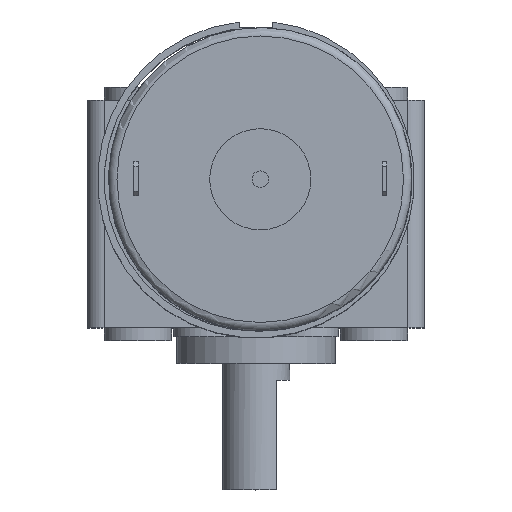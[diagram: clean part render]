
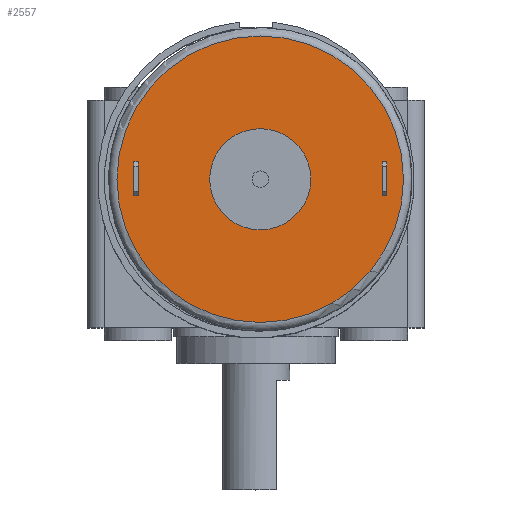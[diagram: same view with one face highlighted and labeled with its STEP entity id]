
A CAD part, top view. The second image highlights one B-rep face of the part: STEP entity #2557.
In plain terms, the highlighted planar face has unit normal (0, 0, 1).
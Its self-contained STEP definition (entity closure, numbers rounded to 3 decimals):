
#86=CIRCLE('',#2730,17.);
#87=CIRCLE('',#2732,6.);
#156=FACE_BOUND('',#568,.T.);
#157=FACE_BOUND('',#569,.T.);
#158=FACE_BOUND('',#570,.T.);
#255=PLANE('',#2731);
#385=FACE_OUTER_BOUND('',#567,.T.);
#567=EDGE_LOOP('',(#2170));
#568=EDGE_LOOP('',(#2171,#2172,#2173,#2174));
#569=EDGE_LOOP('',(#2175,#2176,#2177,#2178));
#570=EDGE_LOOP('',(#2179));
#816=LINE('',#4389,#1005);
#829=LINE('',#4418,#1018);
#836=LINE('',#4439,#1025);
#838=LINE('',#4443,#1027);
#839=LINE('',#4445,#1028);
#841=LINE('',#4449,#1030);
#843=LINE('',#4453,#1032);
#844=LINE('',#4455,#1033);
#1005=VECTOR('',#3142,10.);
#1018=VECTOR('',#3165,10.);
#1025=VECTOR('',#3188,10.);
#1027=VECTOR('',#3192,10.);
#1028=VECTOR('',#3195,10.);
#1030=VECTOR('',#3199,10.);
#1032=VECTOR('',#3203,10.);
#1033=VECTOR('',#3206,10.);
#1273=VERTEX_POINT('',#4386);
#1274=VERTEX_POINT('',#4388);
#1284=VERTEX_POINT('',#4415);
#1285=VERTEX_POINT('',#4417);
#1291=VERTEX_POINT('',#4437);
#1292=VERTEX_POINT('',#4441);
#1293=VERTEX_POINT('',#4447);
#1294=VERTEX_POINT('',#4451);
#1295=VERTEX_POINT('',#4459);
#1296=VERTEX_POINT('',#4462);
#1578=EDGE_CURVE('',#1274,#1273,#816,.T.);
#1592=EDGE_CURVE('',#1285,#1284,#829,.T.);
#1602=EDGE_CURVE('',#1273,#1291,#836,.T.);
#1604=EDGE_CURVE('',#1291,#1292,#838,.T.);
#1605=EDGE_CURVE('',#1292,#1274,#839,.T.);
#1607=EDGE_CURVE('',#1284,#1293,#841,.T.);
#1609=EDGE_CURVE('',#1293,#1294,#843,.T.);
#1610=EDGE_CURVE('',#1294,#1285,#844,.T.);
#1611=EDGE_CURVE('',#1295,#1295,#86,.T.);
#1612=EDGE_CURVE('',#1296,#1296,#87,.T.);
#2170=ORIENTED_EDGE('',*,*,#1611,.F.);
#2171=ORIENTED_EDGE('',*,*,#1578,.T.);
#2172=ORIENTED_EDGE('',*,*,#1602,.T.);
#2173=ORIENTED_EDGE('',*,*,#1604,.T.);
#2174=ORIENTED_EDGE('',*,*,#1605,.T.);
#2175=ORIENTED_EDGE('',*,*,#1592,.T.);
#2176=ORIENTED_EDGE('',*,*,#1607,.T.);
#2177=ORIENTED_EDGE('',*,*,#1609,.T.);
#2178=ORIENTED_EDGE('',*,*,#1610,.T.);
#2179=ORIENTED_EDGE('',*,*,#1612,.T.);
#2557=ADVANCED_FACE('',(#385,#156,#157,#158),#255,.F.);
#2730=AXIS2_PLACEMENT_3D('',#4460,#3213,#3214);
#2731=AXIS2_PLACEMENT_3D('',#4461,#3215,#3216);
#2732=AXIS2_PLACEMENT_3D('',#4463,#3217,#3218);
#3142=DIRECTION('',(0.,1.,0.));
#3165=DIRECTION('',(0.,1.,0.));
#3188=DIRECTION('',(1.,0.,0.));
#3192=DIRECTION('',(0.,-1.,0.));
#3195=DIRECTION('',(-1.,0.,0.));
#3199=DIRECTION('',(1.,0.,0.));
#3203=DIRECTION('',(0.,-1.,0.));
#3206=DIRECTION('',(-1.,0.,0.));
#3213=DIRECTION('center_axis',(0.,0.,-1.));
#3214=DIRECTION('ref_axis',(-1.,0.,0.));
#3215=DIRECTION('center_axis',(0.,0.,-1.));
#3216=DIRECTION('ref_axis',(-1.,0.,0.));
#3217=DIRECTION('center_axis',(0.,0.,-1.));
#3218=DIRECTION('ref_axis',(-1.,0.,0.));
#4386=CARTESIAN_POINT('',(4.775,5.773,115.15));
#4388=CARTESIAN_POINT('',(4.775,1.773,115.15));
#4389=CARTESIAN_POINT('',(4.775,4.748,115.15));
#4415=CARTESIAN_POINT('',(-24.707,5.773,115.15));
#4417=CARTESIAN_POINT('',(-24.707,1.773,115.15));
#4418=CARTESIAN_POINT('',(-24.707,4.748,115.15));
#4437=CARTESIAN_POINT('',(5.275,5.773,115.15));
#4439=CARTESIAN_POINT('',(-2.221,5.773,115.15));
#4441=CARTESIAN_POINT('',(5.275,1.773,115.15));
#4443=CARTESIAN_POINT('',(5.275,2.748,115.15));
#4445=CARTESIAN_POINT('',(-2.471,1.773,115.15));
#4447=CARTESIAN_POINT('',(-24.207,5.773,115.15));
#4449=CARTESIAN_POINT('',(-16.962,5.773,115.15));
#4451=CARTESIAN_POINT('',(-24.207,1.773,115.15));
#4453=CARTESIAN_POINT('',(-24.207,2.748,115.15));
#4455=CARTESIAN_POINT('',(-17.212,1.773,115.15));
#4459=CARTESIAN_POINT('',(7.284,3.722,115.15));
#4460=CARTESIAN_POINT('Origin',(-9.716,3.722,115.15));
#4461=CARTESIAN_POINT('Origin',(-9.716,3.722,115.15));
#4462=CARTESIAN_POINT('',(-3.716,3.722,115.15));
#4463=CARTESIAN_POINT('Origin',(-9.716,3.722,115.15));
